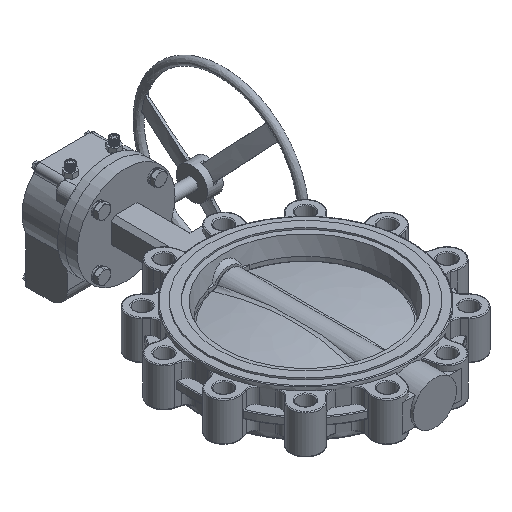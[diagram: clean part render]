
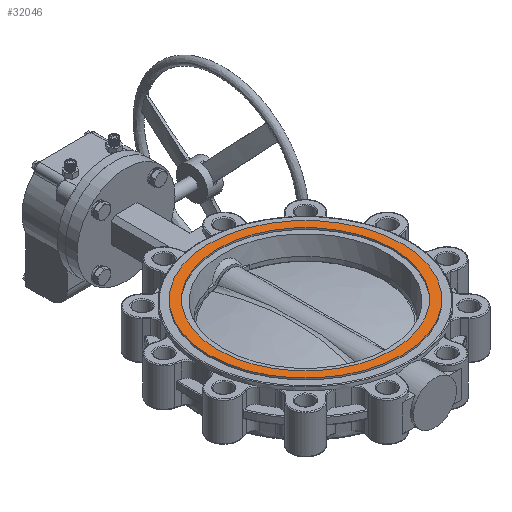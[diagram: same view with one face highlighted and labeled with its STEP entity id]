
A CAD part, isometric view. The second image highlights one B-rep face of the part: STEP entity #32046.
In plain terms, the highlighted planar face has unit normal (0, 0, 1).
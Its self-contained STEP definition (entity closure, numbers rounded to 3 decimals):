
#912 = DIRECTION ( 'NONE',  ( 0., 0., -1. ) ) ;
#4398 = EDGE_LOOP ( 'NONE', ( #65535 ) ) ;
#4768 = DIRECTION ( 'NONE',  ( 0., 0., -1. ) ) ;
#6173 = CARTESIAN_POINT ( 'NONE',  ( -4.361, -67.839, 32. ) ) ;
#12002 = CARTESIAN_POINT ( 'NONE',  ( -116.311, -67.839, 32. ) ) ;
#14677 = AXIS2_PLACEMENT_3D ( 'NONE', #52431, #4768, #36087 ) ;
#22130 = DIRECTION ( 'NONE',  ( -1., 0., 0. ) ) ;
#28625 = CIRCLE ( 'NONE', #58626, 123.2 ) ;
#30353 = AXIS2_PLACEMENT_3D ( 'NONE', #12002, #39142, #60737 ) ;
#32046 = ADVANCED_FACE ( 'NONE', ( #46839, #52081 ), #68522, .T. ) ;
#36087 = DIRECTION ( 'NONE',  ( -1., 0., 0. ) ) ;
#39142 = DIRECTION ( 'NONE',  ( 0., 0., 1. ) ) ;
#39151 = EDGE_CURVE ( 'NONE', #40891, #40891, #28625, .T. ) ;
#40891 = VERTEX_POINT ( 'NONE', #55939 ) ;
#46499 = EDGE_LOOP ( 'NONE', ( #51914 ) ) ;
#46839 = FACE_OUTER_BOUND ( 'NONE', #4398, .T. ) ;
#48039 = CIRCLE ( 'NONE', #14677, 111.95 ) ;
#50115 = EDGE_CURVE ( 'NONE', #52414, #52414, #48039, .T. ) ;
#51914 = ORIENTED_EDGE ( 'NONE', *, *, #50115, .T. ) ;
#52072 = CARTESIAN_POINT ( 'NONE',  ( -116.311, -67.839, 32. ) ) ;
#52081 = FACE_BOUND ( 'NONE', #46499, .T. ) ;
#52414 = VERTEX_POINT ( 'NONE', #52072 ) ;
#52431 = CARTESIAN_POINT ( 'NONE',  ( -4.361, -67.839, 32. ) ) ;
#55939 = CARTESIAN_POINT ( 'NONE',  ( -127.561, -67.839, 32. ) ) ;
#58626 = AXIS2_PLACEMENT_3D ( 'NONE', #6173, #912, #22130 ) ;
#60737 = DIRECTION ( 'NONE',  ( 1., 0., 0. ) ) ;
#65535 = ORIENTED_EDGE ( 'NONE', *, *, #39151, .F. ) ;
#68522 = PLANE ( 'NONE',  #30353 ) ;
